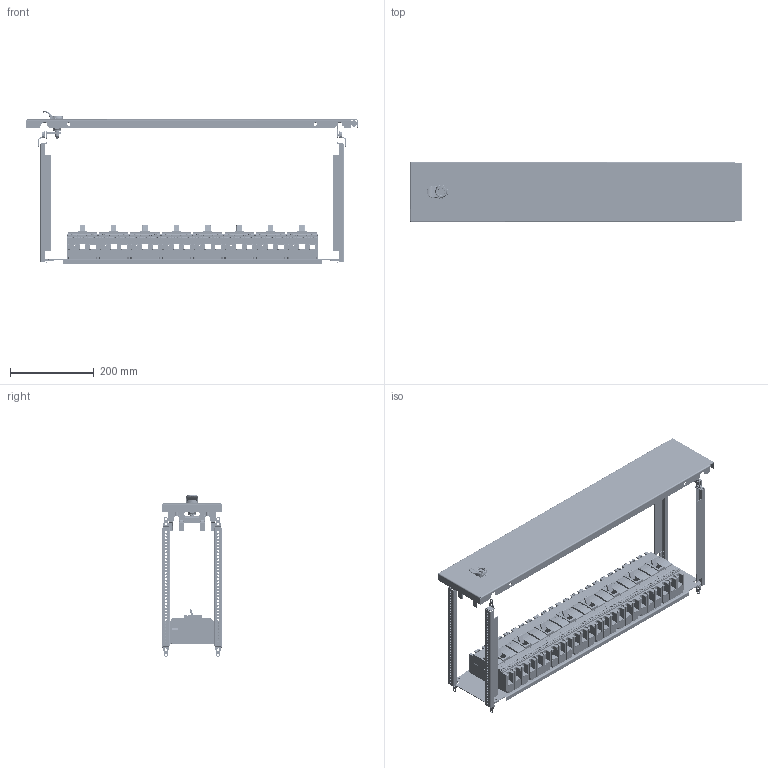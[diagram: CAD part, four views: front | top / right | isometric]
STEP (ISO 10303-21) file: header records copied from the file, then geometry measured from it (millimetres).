
FILE_DESCRIPTION(('CAx-IF Rec.Pracs.---Model Styling and Organization---1.2---2011-12-15','CAx-IF Rec.Pracs.---Geometric and Assembly Validation Properties---4.1---2014-06-16','CAx-IF Rec.Pracs.---PMI Polyline Presentation---2.0---2013-05-24'),'2;1');
FILE_NAME('R5PKEB7V81111.stp','2021-07-29T02:41:11+03:00',(''),(''),'STEP Interface 4.4 by CT CoreTechnologie','3D_Evolution4.4 by CT CoreTechnologie','');
FILE_SCHEMA(('AUTOMOTIVE_DESIGN { 1 0 10303 214 1 1 1 1 }'));
Length unit declared in the file: millimetre
Products named in the file (1): R5PKEB7V81111
Bounding box: 794 x 145 x 386.89 mm (x, y, z)
Surface area: 1297773.9 mm2 (no closed solid volume)
Topology: 0 solids, 171 shells, 6834 faces, 23391 edges, 16381 vertices
Faces by surface type: plane 4250, cylinder 2138, bspline 446
Entity records: 265577 total; most frequent: CARTESIAN_POINT 63796, DIRECTION 40624, ORIENTED_EDGE 40424, EDGE_CURVE 23328, VECTOR 17430, LINE 17430, VERTEX_POINT 16381, AXIS2_PLACEMENT_3D 11597
